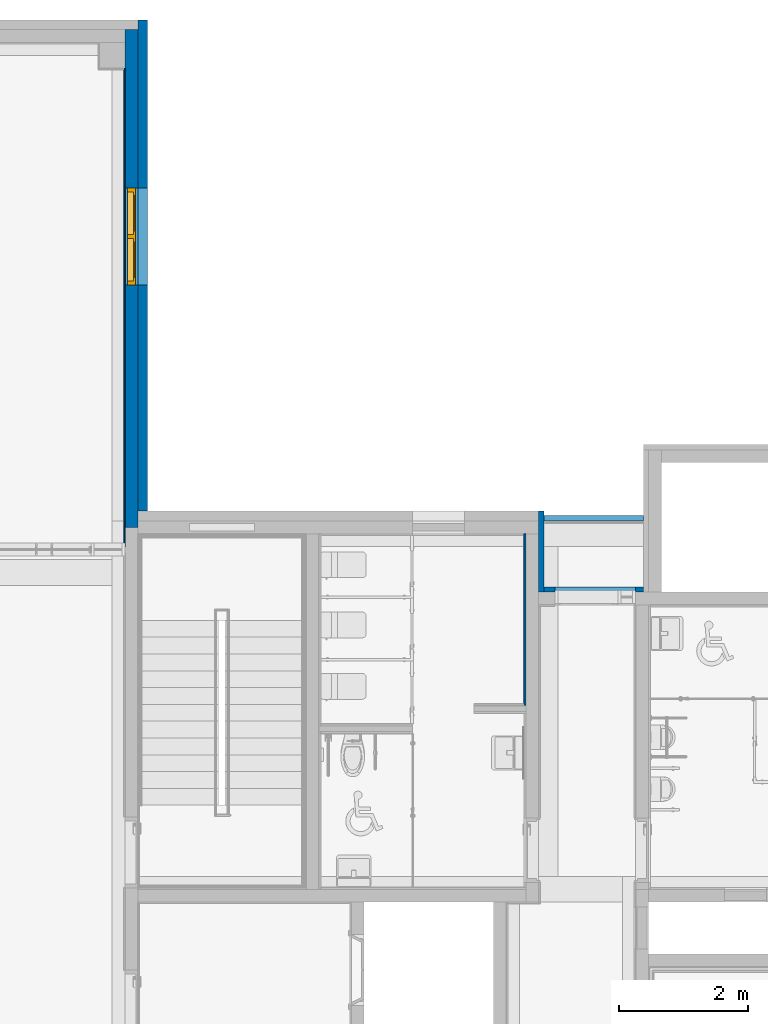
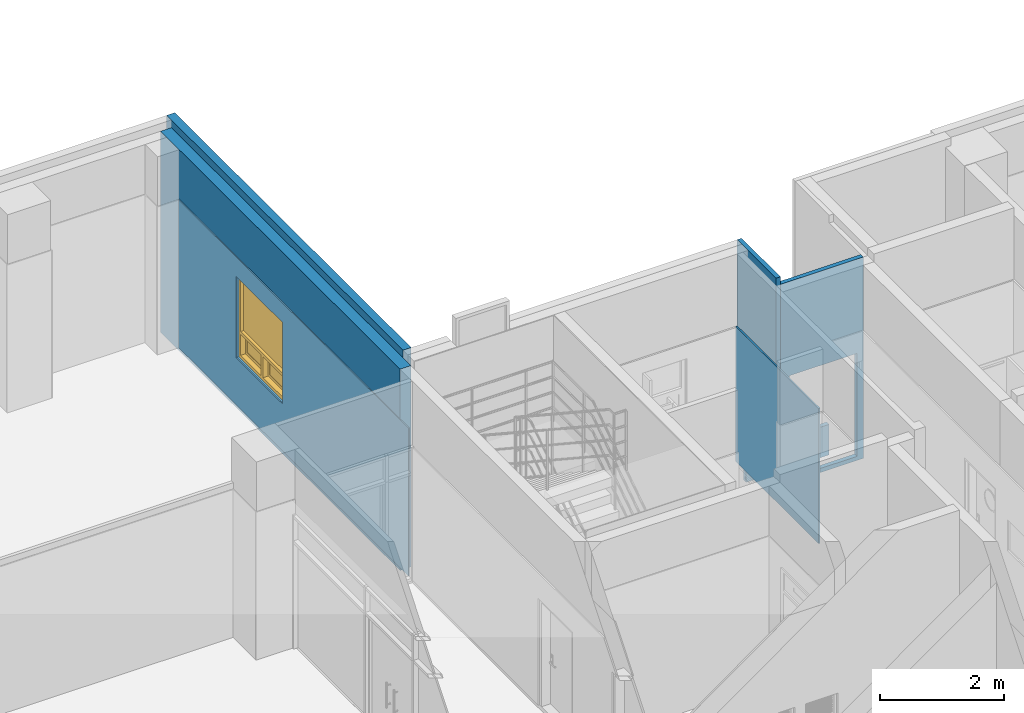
# One storey, part 60 of 81: 7 walls, 1 window, 5 openings.
"""IFC2X3 building model written with IfcOpenShell, lengths in millimetres."""

from ifc_helpers import new_model, entity, si_unit, converted_unit, derived_unit, direction, frame, frame_2d, origin, place, context, subcontext, project, spatial, polyline, rectangle, outline, extrude, clip, bounded_halfspace, faceted_brep, source, transform, mapped, material, material_list, layer, layer_set, layer_usage, type_object, type_shapes, element, fill, save


model = new_model("IFC2X3")

# Units and contexts
model_context = context("Model", 3, precision=0.01, world=origin(), true_north=direction((6.123031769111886e-17, 1.0)))
body_context = subcontext(model_context, "Body", "Model", "MODEL_VIEW")
ifc_project = project(units=[si_unit("LENGTHUNIT", "METRE", prefix="MILLI"), si_unit("AREAUNIT", "SQUARE_METRE"), si_unit("VOLUMEUNIT", "CUBIC_METRE"), converted_unit("PLANEANGLEUNIT", "DEGREE", entity("IfcRatioMeasure", 0.017453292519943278), si_unit("PLANEANGLEUNIT", "RADIAN"), dimensions=[0, 0, 0, 0, 0, 0, 0]), si_unit("MASSUNIT", "GRAM", prefix="KILO"), derived_unit("MASSDENSITYUNIT", [(si_unit("MASSUNIT", "GRAM", prefix="KILO"), 1), (si_unit("LENGTHUNIT", "METRE"), -3)]), derived_unit("MOMENTOFINERTIAUNIT", [(si_unit("LENGTHUNIT", "METRE"), 4)]), si_unit("TIMEUNIT", "SECOND"), si_unit("FREQUENCYUNIT", "HERTZ"), si_unit("THERMODYNAMICTEMPERATUREUNIT", "DEGREE_CELSIUS"), derived_unit("THERMALTRANSMITTANCEUNIT", [(si_unit("MASSUNIT", "GRAM", prefix="KILO"), 1), (si_unit("THERMODYNAMICTEMPERATUREUNIT", "KELVIN"), -1), (si_unit("TIMEUNIT", "SECOND"), -3)]), derived_unit("VOLUMETRICFLOWRATEUNIT", [(si_unit("LENGTHUNIT", "METRE"), 3), (si_unit("TIMEUNIT", "SECOND"), -1)]), derived_unit("MASSFLOWRATEUNIT", [(si_unit("MASSUNIT", "GRAM", prefix="KILO"), 1), (si_unit("TIMEUNIT", "SECOND"), -1)]), derived_unit("ROTATIONALFREQUENCYUNIT", [(si_unit("TIMEUNIT", "SECOND"), -1)]), si_unit("ELECTRICCURRENTUNIT", "AMPERE"), si_unit("ELECTRICVOLTAGEUNIT", "VOLT"), si_unit("POWERUNIT", "WATT"), si_unit("FORCEUNIT", "NEWTON", prefix="KILO"), si_unit("ILLUMINANCEUNIT", "LUX"), si_unit("LUMINOUSFLUXUNIT", "LUMEN"), si_unit("LUMINOUSINTENSITYUNIT", "CANDELA"), derived_unit("USERDEFINED", [(si_unit("MASSUNIT", "GRAM", prefix="KILO"), -1), (si_unit("LENGTHUNIT", "METRE"), -2), (si_unit("TIMEUNIT", "SECOND"), 3), (si_unit("LUMINOUSFLUXUNIT", "LUMEN"), 1)]), derived_unit("SOUNDPOWERUNIT", [(si_unit("MASSUNIT", "GRAM", prefix="KILO"), 1), (si_unit("LENGTHUNIT", "METRE"), 2), (si_unit("TIMEUNIT", "SECOND"), -3)]), derived_unit("SOUNDPRESSUREUNIT", [(si_unit("MASSUNIT", "GRAM", prefix="KILO"), 1), (si_unit("LENGTHUNIT", "METRE"), -1), (si_unit("TIMEUNIT", "SECOND"), -2)]), derived_unit("LINEARVELOCITYUNIT", [(si_unit("LENGTHUNIT", "METRE"), 1), (si_unit("TIMEUNIT", "SECOND"), -1)]), si_unit("PRESSUREUNIT", "PASCAL"), derived_unit("USERDEFINED", [(si_unit("LENGTHUNIT", "METRE"), -2), (si_unit("MASSUNIT", "GRAM", prefix="KILO"), 1), (si_unit("TIMEUNIT", "SECOND"), -2)]), derived_unit("LINEARFORCEUNIT", [(si_unit("MASSUNIT", "GRAM", prefix="KILO"), 1), (si_unit("LENGTHUNIT", "METRE"), 1), (si_unit("TIMEUNIT", "SECOND"), -2), (si_unit("LENGTHUNIT", "METRE"), -1)]), derived_unit("PLANARFORCEUNIT", [(si_unit("MASSUNIT", "GRAM", prefix="KILO"), 1), (si_unit("LENGTHUNIT", "METRE"), 1), (si_unit("TIMEUNIT", "SECOND"), -2), (si_unit("LENGTHUNIT", "METRE"), -2)])], contexts=[model_context])

# Site, building, storey
site_placement = place(None, frame((-14167.972527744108, -657.2125860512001, 0.0)))
site = spatial("IfcSite", under=ifc_project, at=site_placement, Name="Default", CompositionType="ELEMENT")
building_placement = place(site_placement, origin())
building = spatial("IfcBuilding", under=site, at=building_placement, Name="Sample Building", CompositionType="ELEMENT")
storey_placement = place(building_placement, frame((0.0, 0.0, 13400.0)))
storey = spatial("IfcBuildingStorey", under=building, at=storey_placement, Name="지상 4층", CompositionType="ELEMENT", Elevation=13400.00000000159)

# Wall, opening, window
ifc_material_1 = material(Name="KBIMS-콘크리트")
ifc_layer_1 = layer(ifc_material_1, 200.0)
ifc_layer_set_1 = layer_set([ifc_layer_1], Name="기본 벽:WA111-철근콘크리트구조 벽 200mm_W1")
ifc_layer_usage_1 = layer_usage(ifc_layer_set_1, "AXIS2", "NEGATIVE", 100.0)
wall_type_1 = type_object("IfcWallType", Name="기본 벽:WA111-철근콘크리트구조 벽 200mm_W1", PredefinedType="STANDARD", material=ifc_layer_set_1)
wall_1_placement = place(storey_placement, frame((30167.96376153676, 28057.212307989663, -2.3000097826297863e-09), z_axis=(0.0, 0.0, 1.0), x_axis=(0.0, 1.0, 0.0)))
wall_1 = element("IfcWallStandardCase", 1, at=wall_1_placement, inside=storey, type_object=wall_type_1, material=ifc_layer_usage_1, Name="기본 벽:WA111-철근콘크리트구조 벽 200mm_W1", ObjectType="기본 벽:WA111-철근콘크리트구조 벽 200mm_W1", context=body_context, shape_type="Clipping", body=[
    clip(extrude(rectangle(XDim=7699.999987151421, YDim=200.00000000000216, at=frame_2d((3849.9999935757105, -2.1671553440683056e-12), x_axis=(-1.0, 0.0))), origin(), (0.0, 0.0, 1.0), 3950.0000000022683), bounded_halfspace(frame((0.0, -100.0, 3950.0), z_axis=(0.0, 0.0, -1.0), x_axis=(0.0, -1.0, 0.0)), True, frame((0.0, -100.0, 3950.0), z_axis=(0.0, 0.0, -1.0), x_axis=(0.0, -1.0, 0.0)), polyline([(0.0, 0.0), (-60960.0, 0.0), (-60960.0, -30480.09028257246), (-60960.0, -2164080.0941984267), (-60960.0, -2286000.0), (-60960.0, -2346960.0), (0.0, -2346960.0), (0.0, 0.0)]))),
])
opening_1_placement = place(wall_1_placement, frame((5249.999987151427, 100.0, 1000.0)))
opening_1 = element("IfcOpeningElement", 2, at=opening_1_placement, cuts=wall_1, Name="WD842-2단 하부 더블 프로젝트 창(스테인리스 스틸):WD842-2단 하부 더블 프로젝트 창(스테인리스 스틸)_1500x1600mm:1", ObjectType="Opening", context=body_context, shape_type="SweptSolid", body=[
    extrude(rectangle(XDim=1600.0000000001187, YDim=1499.9999999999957, at=frame_2d((800.0000000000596, 749.9999999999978), x_axis=(1.0, 0.0))), frame((0.0, 0.0, 0.0), z_axis=(0.0, -1.0, 0.0), x_axis=(0.0, 0.0, 1.0)), (0.0, 0.0, 1.0), 200.0),
])
ifc_material_2 = material(Name="KBIMS-스테인리스 스틸_도금")
ifc_material_3 = material(Name="KBIMS-유리")
ifc_material_list_1 = material_list([ifc_material_2, ifc_material_3, ifc_material_2, ifc_material_3, ifc_material_2, ifc_material_2, ifc_material_3])
ifc_material_list_2 = material_list([ifc_material_2, ifc_material_3, ifc_material_2, ifc_material_3, ifc_material_2, ifc_material_2, ifc_material_3])
window_style = type_object("IfcWindowStyle", Name="WD842-2단 하부 더블 프로젝트 창(스테인리스 스틸):WD842-2단 하부 더블 프로젝트 창(스테인리스 스틸)_1500x1600mm", ConstructionType="NOTDEFINED", OperationType="NOTDEFINED", ParameterTakesPrecedence=False, Sizeable=False, material=ifc_material_list_2)
shared_shape = source(origin(), body_context, "Body", "Brep", [
    faceted_brep([(60.0, 37.49999999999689, 470.0), (60.0, 162.4999999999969, 470.0), (720.0, 162.4999999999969, 470.0), (720.0, 37.49999999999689, 470.0), (0.0, 162.4999999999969, 530.0), (0.0, 37.49999999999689, 530.0), (60.0, 37.49999999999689, 530.0), (1440.0, 37.49999999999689, 530.0), (1500.0, 37.49999999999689, 530.0), (1500.0, 162.4999999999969, 530.0), (1440.0, 162.4999999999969, 530.0), (60.0, 162.4999999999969, 530.0), (1440.0, 37.49999999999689, 470.0), (1440.0, 162.4999999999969, 470.0), (1440.0, 162.4999999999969, 60.0), (1440.0, 37.49999999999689, 60.0), (1500.0, 37.49999999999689, 0.0), (1500.0, 162.4999999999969, 0.0), (780.0, 162.4999999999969, 60.0), (780.0, 37.49999999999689, 60.0), (0.0, 37.49999999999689, 0.0), (0.0, 162.4999999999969, 0.0), (60.0, 37.49999999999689, 60.0), (60.0, 162.4999999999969, 60.0), (780.0, 37.49999999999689, 470.0), (720.0, 37.49999999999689, 60.0), (780.0, 162.4999999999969, 470.0), (720.0, 162.4999999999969, 60.0)], [[[0, 1, 2, 3]], [[4, 5, 6, 7, 8, 9, 10, 11]], [[12, 13, 14, 15]], [[9, 8, 16, 17]], [[15, 14, 18, 19]], [[17, 16, 20, 21]], [[1, 0, 22, 23]], [[8, 7, 6, 5, 20, 16], [12, 15, 19, 24], [0, 3, 25, 22]], [[5, 4, 21, 20]], [[14, 13, 26, 18], [23, 27, 2, 1], [4, 11, 10, 9, 17, 21]], [[18, 26, 24, 19]], [[2, 27, 25, 3]], [[23, 22, 25, 27]], [[13, 12, 24, 26]]], outer=[[True], [True], [True], [True], [True], [True], [True], [True, False, False], [True], [False, False, True], [True], [True], [True], [True]]),
    faceted_brep([(680.0, 151.0, 430.0), (680.0, 139.0, 430.0), (680.0, 139.0, 100.0), (680.0, 151.0, 100.0), (100.0, 139.0, 430.0), (100.0, 139.0, 100.0), (100.0, 151.0, 430.0), (100.0, 151.0, 100.0)], [[[0, 1, 2, 3]], [[1, 4, 5, 2]], [[4, 6, 7, 5]], [[0, 6, 4, 1]], [[3, 2, 5, 7]], [[6, 0, 3, 7]]]),
    faceted_brep([(110.0, 151.0, 420.0), (110.0, 160.0, 420.0), (670.0, 160.0, 420.0), (670.0, 151.0, 420.0), (100.0, 139.0, 430.0), (100.0, 151.0, 430.0), (680.0, 151.0, 430.0), (680.0, 139.0, 430.0), (110.0, 130.0, 420.0), (110.0, 139.0, 420.0), (670.0, 139.0, 420.0), (670.0, 130.0, 420.0), (60.0, 160.0, 470.0), (60.0, 130.0, 470.0), (720.0, 130.0, 470.0), (720.0, 160.0, 470.0), (670.0, 160.0, 110.0), (670.0, 151.0, 110.0), (680.0, 151.0, 100.0), (680.0, 139.0, 100.0), (670.0, 139.0, 110.0), (670.0, 130.0, 110.0), (720.0, 130.0, 60.0), (720.0, 160.0, 60.0), (110.0, 160.0, 110.0), (110.0, 151.0, 110.0), (100.0, 151.0, 100.0), (100.0, 139.0, 100.0), (110.0, 139.0, 110.0), (110.0, 130.0, 110.0), (60.0, 130.0, 60.0), (60.0, 160.0, 60.0)], [[[0, 1, 2, 3]], [[4, 5, 6, 7]], [[8, 9, 10, 11]], [[12, 13, 14, 15]], [[3, 2, 16, 17]], [[7, 6, 18, 19]], [[11, 10, 20, 21]], [[15, 14, 22, 23]], [[17, 16, 24, 25]], [[19, 18, 26, 27]], [[21, 20, 28, 29]], [[23, 22, 30, 31]], [[25, 24, 1, 0]], [[3, 17, 25, 0], [5, 26, 18, 6]], [[27, 26, 5, 4]], [[7, 19, 27, 4], [9, 28, 20, 10]], [[29, 28, 9, 8]], [[11, 21, 29, 8], [13, 30, 22, 14]], [[31, 30, 13, 12]], [[1, 24, 16, 2], [15, 23, 31, 12]]], outer=[[True], [True], [True], [True], [True], [True], [True], [True], [True], [True], [True], [True], [True], [False, True], [True], [True, False], [True], [False, True], [True], [False, True]]),
    faceted_brep([(1400.0, 151.0, 430.0), (820.0, 151.0, 430.0), (820.0, 139.0, 430.0), (1400.0, 139.0, 430.0), (1400.0, 151.0, 100.0), (1400.0, 139.0, 100.0), (820.0, 139.0, 100.0), (820.0, 151.0, 100.0)], [[[0, 1, 2, 3]], [[4, 5, 6, 7]], [[1, 0, 4, 7]], [[2, 1, 7, 6]], [[3, 2, 6, 5]], [[0, 3, 5, 4]]]),
    faceted_brep([(820.0, 139.0, 100.0), (820.0, 151.0, 100.0), (820.0, 151.0, 430.0), (820.0, 139.0, 430.0), (1390.0, 151.0, 420.0), (1390.0, 151.0, 110.0), (830.0, 151.0, 110.0), (830.0, 151.0, 420.0), (1400.0, 151.0, 100.0), (1400.0, 151.0, 430.0), (830.0, 160.0, 110.0), (830.0, 160.0, 420.0), (1390.0, 160.0, 420.0), (1390.0, 160.0, 110.0), (1400.0, 139.0, 430.0), (1400.0, 139.0, 100.0), (1390.0, 130.0, 420.0), (1390.0, 139.0, 420.0), (1390.0, 139.0, 110.0), (1390.0, 130.0, 110.0), (830.0, 130.0, 420.0), (830.0, 139.0, 420.0), (780.0, 160.0, 470.0), (780.0, 130.0, 470.0), (1440.0, 130.0, 470.0), (1440.0, 160.0, 470.0), (1440.0, 130.0, 60.0), (1440.0, 160.0, 60.0), (830.0, 139.0, 110.0), (830.0, 130.0, 110.0), (780.0, 130.0, 60.0), (780.0, 160.0, 60.0)], [[[0, 1, 2, 3]], [[4, 5, 6, 7], [2, 1, 8, 9]], [[6, 10, 11, 7]], [[4, 12, 13, 5]], [[14, 9, 8, 15]], [[16, 17, 18, 19]], [[7, 11, 12, 4]], [[3, 2, 9, 14]], [[20, 21, 17, 16]], [[22, 23, 24, 25]], [[25, 24, 26, 27]], [[5, 13, 10, 6]], [[15, 8, 1, 0]], [[19, 18, 28, 29]], [[27, 26, 30, 31]], [[14, 15, 0, 3], [21, 28, 18, 17]], [[29, 28, 21, 20]], [[16, 19, 29, 20], [23, 30, 26, 24]], [[31, 30, 23, 22]], [[11, 10, 13, 12], [25, 27, 31, 22]]], outer=[[True], [False, True], [True], [True], [True], [True], [True], [True], [True], [True], [True], [True], [True], [True], [True], [True, False], [True], [False, True], [True], [False, True]]),
    faceted_brep([(60.0, 37.50000000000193, 1540.0), (60.0, 162.50000000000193, 1540.0), (1440.0, 162.50000000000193, 1540.0), (1440.0, 37.50000000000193, 1540.0), (0.0, 162.50000000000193, 1600.0), (0.0, 37.50000000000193, 1600.0), (1500.0, 37.50000000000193, 1600.0), (1500.0, 162.50000000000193, 1600.0), (1440.0, 162.50000000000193, 530.0), (1440.0, 37.50000000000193, 530.0), (1500.0, 37.50000000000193, 530.0), (1500.0, 162.50000000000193, 530.0), (60.0, 37.50000000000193, 530.0), (60.0, 162.50000000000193, 530.0), (0.0, 37.50000000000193, 530.0), (0.0, 162.50000000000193, 530.0)], [[[0, 1, 2, 3]], [[4, 5, 6, 7]], [[3, 2, 8, 9]], [[7, 6, 10, 11]], [[1, 0, 12, 13]], [[0, 3, 9, 10, 6, 5, 14, 12]], [[5, 4, 15, 14]], [[2, 1, 13, 15, 4, 7, 11, 8]], [[13, 12, 14, 15]], [[9, 8, 11, 10]]]),
    faceted_brep([(1440.0, 106.0, 1540.0), (60.0, 106.0, 1540.0), (60.0, 94.0, 1540.0), (1440.0, 94.0, 1540.0), (1440.0, 106.0, 530.0), (60.0, 106.0, 530.0), (60.0, 94.0, 530.0), (1440.0, 94.0, 530.0)], [[[0, 1, 2, 3]], [[1, 0, 4, 5]], [[2, 1, 5, 6]], [[3, 2, 6, 7]], [[0, 3, 7, 4]], [[5, 4, 7, 6]]]),
])
type_shapes(window_style, [shared_shape])
window_placement = place(opening_1_placement, frame((0.0, 0.0, 2.2992026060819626e-09), z_axis=(0.0, 0.0, 1.0), x_axis=(-1.0, 0.0, 0.0)))
window = element("IfcWindow", 3, at=window_placement, inside=storey, type_object=window_style, material=ifc_material_list_1, Name="WD842-2단 하부 더블 프로젝트 창(스테인리스 스틸):WD842-2단 하부 더블 프로젝트 창(스테인리스 스틸)_1500x1600mm", ObjectType="WD842-2단 하부 더블 프로젝트 창(스테인리스 스틸):WD842-2단 하부 더블 프로젝트 창(스테인리스 스틸)_1500x1600mm", OverallHeight=1600.0000000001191, OverallWidth=1499.9999999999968, context=body_context, shape_type="MappedRepresentation", body=[
    mapped(shared_shape, transform((0.0, 0.0, 0.0), scale=1.0)),
])
fill(opening_1, window)

# Walls
ifc_material_4 = material(Name="KBIMS-화강석 잔다듬")
ifc_layer_2 = layer(ifc_material_4, 80.0)
ifc_layer_set_2 = layer_set([ifc_layer_2], Name="기본 벽:WA313-화강석잔다듬 벽 (30, 건식50) 80mm")
ifc_layer_usage_2 = layer_usage(ifc_layer_set_2, "AXIS2", "POSITIVE", -40.0)
wall_type_2 = type_object("IfcWallType", Name="기본 벽:WA313-화강석잔다듬 벽 (30, 건식50) 80mm", PredefinedType="STANDARD", material=ifc_layer_set_2)
wall_2_placement = place(storey_placement, frame((36507.963798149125, 27057.212295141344, -2.3000097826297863e-09), z_axis=(0.0, 0.0, 1.0), x_axis=(0.0, 1.0, 0.0)))
element("IfcWallStandardCase", 4, at=wall_2_placement, inside=storey, type_object=wall_type_2, material=ifc_layer_usage_2, Name="기본 벽:WA313-화강석잔다듬 벽 (30, 건식50) 80mm", ObjectType="기본 벽:WA313-화강석잔다듬 벽 (30, 건식50) 80mm", context=body_context, shape_type="SweptSolid", body=[
    extrude(rectangle(XDim=1250.0000128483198, YDim=79.99999999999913, at=frame_2d((625.0000064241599, 0.0), x_axis=(-1.0, 0.0))), origin(), (0.0, 0.0, 1.0), 4099.999999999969),
])
ifc_layer_usage_3 = layer_usage(ifc_layer_set_2, "AXIS2", "NEGATIVE", 40.0)
wall_3_placement = place(storey_placement, frame((38087.97249112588, 28197.21230798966, -600.0), z_axis=(0.0, 0.0, 1.0), x_axis=(-1.0, 0.0, 0.0)))
element("IfcWallStandardCase", 5, at=wall_3_placement, inside=storey, type_object=wall_type_2, material=ifc_layer_usage_3, Name="기본 벽:WA313-화강석잔다듬 벽 (30, 건식50) 80mm", ObjectType="기본 벽:WA313-화강석잔다듬 벽 (30, 건식50) 80mm", context=body_context, shape_type="SweptSolid", body=[
    extrude(rectangle(XDim=1540.008692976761, YDim=79.99999999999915, at=frame_2d((770.0043464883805, -1.765698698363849e-12), x_axis=(-1.0, 0.0))), origin(), (0.0, 0.0, 1.0), 600.0000000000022),
])

# Wall, openings
ifc_layer_usage_4 = layer_usage(ifc_layer_set_2, "AXIS2", "POSITIVE", -40.0)
wall_4_placement = place(storey_placement, frame((38087.972491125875, 27097.21229514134, -2.3000097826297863e-09), z_axis=(0.0, 0.0, 1.0), x_axis=(-1.0, 0.0, 0.0)))
wall_4 = element("IfcWallStandardCase", 6, at=wall_4_placement, inside=storey, type_object=wall_type_2, material=ifc_layer_usage_4, Name="기본 벽:WA313-화강석잔다듬 벽 (30, 건식50) 80mm", ObjectType="기본 벽:WA313-화강석잔다듬 벽 (30, 건식50) 80mm", context=body_context, shape_type="Clipping", body=[
    clip(extrude(rectangle(XDim=1540.0086929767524, YDim=79.99999999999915, at=frame_2d((770.0043464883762, 2.5579538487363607e-13), x_axis=(-1.0, 0.0))), origin(), (0.0, 0.0, 1.0), 3950.0000000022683), bounded_halfspace(frame((0.0, -40.0, 3950.0), z_axis=(0.0, 0.0, -1.0), x_axis=(-1.0, 0.0, 0.0)), True, frame((0.0, -40.0, 3950.0), z_axis=(0.0, 0.0, -1.0), x_axis=(-1.0, 0.0, 0.0)), polyline([(0.0, 0.0), (0.0, 24384.0), (-469394.6496193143, 24384.0), (-469394.64961931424, -1.4791964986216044e-09), (0.0, 0.0)]))),
])
opening_2_placement = place(wall_4_placement, origin())
element("IfcOpeningElement", 7, at=opening_2_placement, cuts=wall_4, Name="기본 벽:WA313-화강석잔다듬 벽 (30, 건식50) 80mm", ObjectType="Opening", context=body_context, shape_type="SweptSolid", body=[
    extrude(outline(polyline([(-681.2500000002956, -1022.5000000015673), (568.7500000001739, -1022.5000000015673), (568.7500000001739, 997.5000000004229), (518.7500000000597, 997.5000000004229), (518.7500000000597, -972.4999999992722), (-406.2499999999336, -972.4999999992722), (-406.249999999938, 997.5000000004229), (-681.2500000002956, 997.5000000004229), (-681.2500000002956, -1022.5000000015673)])), frame((801.2586929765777, -192.39999999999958, 1077.500000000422), z_axis=(0.0, 1.0, 0.0), x_axis=(1.0, 0.0, 0.0)), (0.0, 0.0, 1.0), 384.79999999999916),
])
opening_3_placement = place(wall_4_placement, origin())
element("IfcOpeningElement", 8, at=opening_3_placement, cuts=wall_4, Name="기본 벽:WA313-화강석잔다듬 벽 (30, 건식50) 80mm", ObjectType="Opening", context=body_context, shape_type="SweptSolid", body=[
    extrude(rectangle(XDim=1969.9999999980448, YDim=924.9999999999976, at=frame_2d((4.320099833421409e-12, 0.0), x_axis=(0.0, 1.0))), frame((857.5086929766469, -1484.0, 1065.0), z_axis=(0.0, 1.0, 0.0), x_axis=(-1.0, 0.0, 0.0)), (0.0, 0.0, 1.0), 3048.0),
])

# Wall, opening
ifc_material_5 = material(Name="WA240-ALC블록벽")
ifc_layer_3 = layer(ifc_material_5, 35.0)
ifc_material_6 = material(Name="WA795-(STEEL)BRACKET")
ifc_layer_4 = layer(ifc_material_6, 65.0)
ifc_material_7 = material(Name="WA821-압출스티로폼 벽 (본드붙임, 비중0.03) 50mm")
ifc_layer_5 = layer(ifc_material_7, 50.0)
ifc_layer_set_3 = layer_set([ifc_layer_3, ifc_layer_4, ifc_layer_5], Name="기본 벽:A2-22-02A-압출스티로폼, BRACKET(STEEL), ALC블록 (150mm)")
ifc_layer_usage_5 = layer_usage(ifc_layer_set_3, "AXIS2", "POSITIVE", -75.0)
wall_type_3 = type_object("IfcWallType", Name="기본 벽:A2-22-02A-압출스티로폼, BRACKET(STEEL), ALC블록 (150mm)", PredefinedType="STANDARD", material=ifc_layer_set_3)
wall_5_placement = place(storey_placement, frame((30342.963761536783, 28307.212307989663, -2.3000097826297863e-09), z_axis=(0.0, 0.0, 1.0), x_axis=(0.0, 1.0, 0.0)))
wall_5 = element("IfcWallStandardCase", 9, at=wall_5_placement, inside=storey, type_object=wall_type_3, material=ifc_layer_usage_5, Name="기본 벽:A2-22-02A-압출스티로폼, BRACKET(STEEL), ALC블록 (150mm)", ObjectType="기본 벽:A2-22-02A-압출스티로폼, BRACKET(STEEL), ALC블록 (150mm)", context=body_context, shape_type="SweptSolid", body=[
    extrude(rectangle(XDim=7599.999987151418, YDim=150.00000000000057, at=frame_2d((3799.999993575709, -1.4921397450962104e-13), x_axis=(-1.0, 0.0))), origin(), (0.0, 0.0, 1.0), 4099.999999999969),
])
opening_4_placement = place(wall_5_placement, origin())
element("IfcOpeningElement", 10, at=opening_4_placement, cuts=wall_5, Name="기본 벽:A2-22-02A-압출스티로폼, BRACKET(STEEL), ALC블록 (150mm)", ObjectType="Opening", context=body_context, shape_type="SweptSolid", body=[
    extrude(rectangle(XDim=1600.0000000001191, YDim=1499.9999999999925, at=frame_2d((2.1600499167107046e-12, 1.0800249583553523e-12), x_axis=(0.0, 1.0))), frame((4249.99998715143, -1249.0, 1800.0), z_axis=(0.0, 1.0, 0.0), x_axis=(-1.0, 0.0, 0.0)), (0.0, 0.0, 1.0), 3048.0),
])

ifc_material_8 = material(Name="WA611-수성페인트 (내부) 벽 (3회)")
ifc_layer_6 = layer(ifc_material_8, 1.0)
ifc_material_9 = material(Name="WA551-시멘트모르타르 (내부) 벽 18mm")
ifc_layer_7 = layer(ifc_material_9, 16.0)
ifc_material_10 = material(Name="WA555-콘크리트면정리 벽 (내부)")
ifc_layer_8 = layer(ifc_material_10, 1.0)
ifc_layer_set_4 = layer_set([ifc_layer_6, ifc_layer_7, ifc_layer_8], Name="기본 벽:A1-32-06A-콘크리트면정리, 시멘트모르타르(미장용), 수성페인트(내부) (18mm)")
ifc_layer_usage_6 = layer_usage(ifc_layer_set_4, "AXIS2", "NEGATIVE", 9.000000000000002)
wall_type_4 = type_object("IfcWallType", Name="기본 벽:A1-32-06A-콘크리트면정리, 시멘트모르타르(미장용), 수성페인트(내부) (18mm)", PredefinedType="STANDARD", material=ifc_layer_set_4)
wall_6_placement = place(storey_placement, frame((30058.96376153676, 27757.212586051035, 80.0), z_axis=(0.0, 0.0, 1.0), x_axis=(0.0, 1.0, 0.0)))
wall_6 = element("IfcWallStandardCase", 11, at=wall_6_placement, inside=storey, type_object=wall_type_4, material=ifc_layer_usage_6, Name="기본 벽:A1-32-06A-콘크리트면정리, 시멘트모르타르(미장용), 수성페인트(내부) (18mm)", ObjectType="기본 벽:A1-32-06A-콘크리트면정리, 시멘트모르타르(미장용), 수성페인트(내부) (18mm)", context=body_context, shape_type="SweptSolid", body=[
    extrude(rectangle(XDim=7399.99931289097, YDim=18.00000000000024, at=frame_2d((3699.999656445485, -2.1662671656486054e-12), x_axis=(-1.0, 0.0))), origin(), (0.0, 0.0, 1.0), 2899.999999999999),
])
opening_5_placement = place(wall_6_placement, origin())
element("IfcOpeningElement", 12, at=opening_5_placement, cuts=wall_6, Name="기본 벽:A1-32-06A-콘크리트면정리, 시멘트모르타르(미장용), 수성페인트(내부) (18mm)", ObjectType="Opening", context=body_context, shape_type="SweptSolid", body=[
    extrude(rectangle(XDim=1600.0000000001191, YDim=1499.9999999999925, at=frame_2d((2.1600499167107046e-12, 1.0800249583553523e-12), x_axis=(0.0, 1.0))), frame((4799.999709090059, -1533.0, 1720.0), z_axis=(0.0, 1.0, 0.0), x_axis=(-1.0, 0.0, 0.0)), (0.0, 0.0, 1.0), 3048.0),
])

# Wall
ifc_material_11 = material(Name="WA352-도기질타일 벽 200x200")
ifc_layer_9 = layer(ifc_material_11, 8.0)
ifc_material_12 = material(Name="WA551-시멘트모르타르 (내부) 벽 22mm")
ifc_layer_10 = layer(ifc_material_12, 22.0)
ifc_layer_set_5 = layer_set([ifc_layer_9, ifc_layer_10], Name="기본 벽:A1-33-01B-시멘트 모르타르, 도기질타일 (30mm)")
ifc_layer_usage_7 = layer_usage(ifc_layer_set_5, "AXIS2", "POSITIVE", -15.0)
wall_type_5 = type_object("IfcWallType", Name="기본 벽:A1-33-01B-시멘트 모르타르, 도기질타일 (30mm)", PredefinedType="STANDARD", material=ifc_layer_set_5)
wall_7_placement = place(storey_placement, frame((36252.96379815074, 25297.212309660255, 40.0), z_axis=(0.0, 0.0, 1.0), x_axis=(0.0, 1.0, 0.0)))
element("IfcWallStandardCase", 13, at=wall_7_placement, inside=storey, type_object=wall_type_5, material=ifc_layer_usage_7, Name="기본 벽:A1-33-01B-시멘트 모르타르, 도기질타일 (30mm)", ObjectType="기본 벽:A1-33-01B-시멘트 모르타르, 도기질타일 (30mm)", context=body_context, shape_type="SweptSolid", body=[
    extrude(rectangle(XDim=2659.9999983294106, YDim=30.000000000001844, at=frame_2d((1329.9999991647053, 1.0533796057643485e-12), x_axis=(-1.0, 0.0))), origin(), (0.0, 0.0, 1.0), 2649.9999999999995),
])

save(model, "model.ifc")
